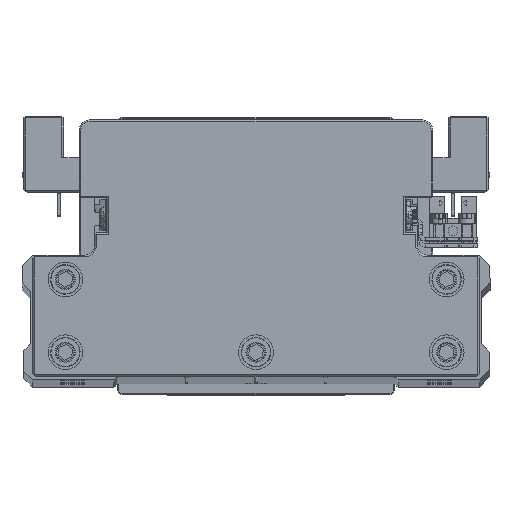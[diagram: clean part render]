
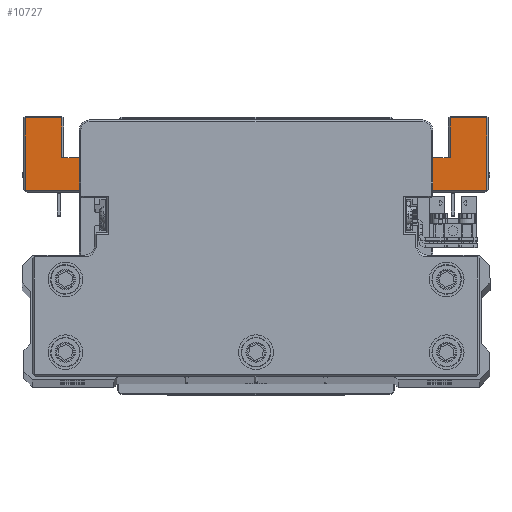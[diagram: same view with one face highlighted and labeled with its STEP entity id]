
A CAD part, top view. The second image highlights one B-rep face of the part: STEP entity #10727.
In plain terms, the highlighted planar face has unit normal (0, 0, 1) as drawn and (0, -1, 0) by its records, which use the part's own axes.
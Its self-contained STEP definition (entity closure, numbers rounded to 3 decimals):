
#464 = VECTOR ( 'NONE', #29020, 1000. ) ;
#674 = DIRECTION ( 'NONE',  ( 0., 0., -1. ) ) ;
#771 = EDGE_CURVE ( 'NONE', #39238, #8854, #3819, .T. ) ;
#1329 = LINE ( 'NONE', #13946, #27984 ) ;
#1370 = VERTEX_POINT ( 'NONE', #7872 ) ;
#1417 = VERTEX_POINT ( 'NONE', #11393 ) ;
#2073 = CARTESIAN_POINT ( 'NONE',  ( -40.066, -45., -41.5 ) ) ;
#2319 = VECTOR ( 'NONE', #40603, 1000. ) ;
#3092 = EDGE_CURVE ( 'NONE', #18707, #5013, #4542, .T. ) ;
#3256 = CARTESIAN_POINT ( 'NONE',  ( -40.066, -45., -43. ) ) ;
#3819 = LINE ( 'NONE', #16426, #464 ) ;
#3892 = CARTESIAN_POINT ( 'NONE',  ( 46., -45., -54. ) ) ;
#3992 = VERTEX_POINT ( 'NONE', #33809 ) ;
#4133 = EDGE_CURVE ( 'NONE', #8422, #38306, #15630, .T. ) ;
#4152 = CARTESIAN_POINT ( 'NONE',  ( -66.5, -45., -43. ) ) ;
#4463 = DIRECTION ( 'NONE',  ( -1., 0., 0. ) ) ;
#4494 = ORIENTED_EDGE ( 'NONE', *, *, #5539, .T. ) ;
#4538 = DIRECTION ( 'NONE',  ( 0., 1., 0. ) ) ;
#4542 = CIRCLE ( 'NONE', #27623, 1.5 ) ;
#4681 = CARTESIAN_POINT ( 'NONE',  ( -56., -45., -52.5 ) ) ;
#4908 = VERTEX_POINT ( 'NONE', #18185 ) ;
#5013 = VERTEX_POINT ( 'NONE', #3256 ) ;
#5200 = EDGE_CURVE ( 'NONE', #20806, #8422, #23509, .T. ) ;
#5339 = EDGE_CURVE ( 'NONE', #25556, #3992, #40009, .T. ) ;
#5539 = EDGE_CURVE ( 'NONE', #3992, #18707, #12939, .T. ) ;
#5723 = ORIENTED_EDGE ( 'NONE', *, *, #5200, .T. ) ;
#5895 = LINE ( 'NONE', #28007, #2319 ) ;
#6283 = DIRECTION ( 'NONE',  ( 0., 0., -1. ) ) ;
#6363 = DIRECTION ( 'NONE',  ( 0., -1., 0. ) ) ;
#6605 = CARTESIAN_POINT ( 'NONE',  ( -56., -45., -52.5 ) ) ;
#7129 = DIRECTION ( 'NONE',  ( 0., 0., 1. ) ) ;
#7416 = CARTESIAN_POINT ( 'NONE',  ( -39.868, -45., -42.987 ) ) ;
#7552 = CARTESIAN_POINT ( 'NONE',  ( 46., -45., -54. ) ) ;
#7793 = DIRECTION ( 'NONE',  ( 0., 0., -1. ) ) ;
#7872 = CARTESIAN_POINT ( 'NONE',  ( -66.5, -45., -64. ) ) ;
#8046 = VERTEX_POINT ( 'NONE', #13727 ) ;
#8150 = VERTEX_POINT ( 'NONE', #14341 ) ;
#8422 = VERTEX_POINT ( 'NONE', #22353 ) ;
#8764 = CARTESIAN_POINT ( 'NONE',  ( 40.066, -45., -43. ) ) ;
#8854 = VERTEX_POINT ( 'NONE', #6605 ) ;
#8875 = DIRECTION ( 'NONE',  ( -0.991, 0., 0.132 ) ) ;
#8987 = VECTOR ( 'NONE', #4463, 1000. ) ;
#9462 = FACE_OUTER_BOUND ( 'NONE', #26788, .T. ) ;
#9472 = ORIENTED_EDGE ( 'NONE', *, *, #27425, .T. ) ;
#9536 = VECTOR ( 'NONE', #21375, 1000. ) ;
#10727 = ADVANCED_FACE ( 'NONE', ( #9462 ), #22072, .T. ) ;
#10847 = VERTEX_POINT ( 'NONE', #29282 ) ;
#11128 = EDGE_CURVE ( 'NONE', #5013, #31573, #5895, .T. ) ;
#11393 = CARTESIAN_POINT ( 'NONE',  ( -56., -45., -64. ) ) ;
#11563 = ORIENTED_EDGE ( 'NONE', *, *, #12234, .T. ) ;
#11716 = CARTESIAN_POINT ( 'NONE',  ( -77.786, -45., -42.5 ) ) ;
#11732 = DIRECTION ( 'NONE',  ( 1., 0., 0. ) ) ;
#11966 = ORIENTED_EDGE ( 'NONE', *, *, #771, .F. ) ;
#12234 = EDGE_CURVE ( 'NONE', #1417, #8854, #32995, .T. ) ;
#12508 = EDGE_CURVE ( 'NONE', #10847, #39238, #22847, .T. ) ;
#12939 = LINE ( 'NONE', #25542, #35629 ) ;
#13727 = CARTESIAN_POINT ( 'NONE',  ( 40.066, -45., -43. ) ) ;
#13946 = CARTESIAN_POINT ( 'NONE',  ( 66.5, -45., -43.5 ) ) ;
#14154 = EDGE_CURVE ( 'NONE', #8150, #27198, #21979, .T. ) ;
#14341 = CARTESIAN_POINT ( 'NONE',  ( 46., -45., -52.5 ) ) ;
#14687 = DIRECTION ( 'NONE',  ( 0., 1., 0. ) ) ;
#15204 = ORIENTED_EDGE ( 'NONE', *, *, #28160, .T. ) ;
#15478 = ORIENTED_EDGE ( 'NONE', *, *, #28331, .T. ) ;
#15630 = LINE ( 'NONE', #28210, #25071 ) ;
#16244 = VERTEX_POINT ( 'NONE', #33566 ) ;
#16399 = LINE ( 'NONE', #28987, #28234 ) ;
#16426 = CARTESIAN_POINT ( 'NONE',  ( -55.5, -45., -52.5 ) ) ;
#16503 = DIRECTION ( 'NONE',  ( 1., 0., 0. ) ) ;
#17160 = DIRECTION ( 'NONE',  ( 0., 0., -1. ) ) ;
#17306 = DIRECTION ( 'NONE',  ( 0., 0., 1. ) ) ;
#17379 = VECTOR ( 'NONE', #8875, 1000. ) ;
#18020 = AXIS2_PLACEMENT_3D ( 'NONE', #32859, #4538, #17160 ) ;
#18180 = ORIENTED_EDGE ( 'NONE', *, *, #3092, .T. ) ;
#18185 = CARTESIAN_POINT ( 'NONE',  ( 39.868, -45., -42.987 ) ) ;
#18570 = VECTOR ( 'NONE', #7793, 1000. ) ;
#18707 = VERTEX_POINT ( 'NONE', #7416 ) ;
#18815 = CARTESIAN_POINT ( 'NONE',  ( 56., -45., -52.5 ) ) ;
#18973 = DIRECTION ( 'NONE',  ( 0., 0., -1. ) ) ;
#19887 = VECTOR ( 'NONE', #24312, 1000. ) ;
#20184 = LINE ( 'NONE', #32785, #8987 ) ;
#20560 = ORIENTED_EDGE ( 'NONE', *, *, #32564, .F. ) ;
#20806 = VERTEX_POINT ( 'NONE', #18815 ) ;
#21375 = DIRECTION ( 'NONE',  ( -1., 0., 0. ) ) ;
#21979 = LINE ( 'NONE', #34590, #39097 ) ;
#22072 = PLANE ( 'NONE',  #28689 ) ;
#22353 = CARTESIAN_POINT ( 'NONE',  ( 56., -45., -64. ) ) ;
#22380 = EDGE_CURVE ( 'NONE', #1370, #1417, #27431, .T. ) ;
#22847 = LINE ( 'NONE', #35441, #27217 ) ;
#23509 = LINE ( 'NONE', #36103, #18570 ) ;
#24243 = CARTESIAN_POINT ( 'NONE',  ( 66.5, -45., -64. ) ) ;
#24312 = DIRECTION ( 'NONE',  ( -1., 0., 0. ) ) ;
#24477 = ORIENTED_EDGE ( 'NONE', *, *, #14154, .F. ) ;
#24547 = CARTESIAN_POINT ( 'NONE',  ( -46., -45., -52.5 ) ) ;
#24568 = LINE ( 'NONE', #37162, #17379 ) ;
#25071 = VECTOR ( 'NONE', #40798, 1000. ) ;
#25542 = CARTESIAN_POINT ( 'NONE',  ( -39.868, -45., -42.987 ) ) ;
#25556 = VERTEX_POINT ( 'NONE', #34369 ) ;
#26544 = DIRECTION ( 'NONE',  ( 0., 0., 1. ) ) ;
#26788 = EDGE_LOOP ( 'NONE', ( #29818, #4494, #18180, #32850, #36528, #38669, #11563, #11966, #36209, #27151, #24477, #20560, #5723, #31206, #36707, #9472, #15204, #15478 ) ) ;
#27151 = ORIENTED_EDGE ( 'NONE', *, *, #35943, .T. ) ;
#27198 = VERTEX_POINT ( 'NONE', #7552 ) ;
#27217 = VECTOR ( 'NONE', #7129, 1000. ) ;
#27233 = EDGE_CURVE ( 'NONE', #38306, #16244, #1329, .T. ) ;
#27286 = DIRECTION ( 'NONE',  ( 0., 0., -1. ) ) ;
#27425 = EDGE_CURVE ( 'NONE', #16244, #8046, #37046, .T. ) ;
#27431 = LINE ( 'NONE', #40027, #38952 ) ;
#27623 = AXIS2_PLACEMENT_3D ( 'NONE', #2073, #14687, #27286 ) ;
#27984 = VECTOR ( 'NONE', #26544, 1000. ) ;
#28007 = CARTESIAN_POINT ( 'NONE',  ( -66., -45., -43. ) ) ;
#28160 = EDGE_CURVE ( 'NONE', #8046, #4908, #35833, .T. ) ;
#28210 = CARTESIAN_POINT ( 'NONE',  ( 67., -45., -64. ) ) ;
#28234 = VECTOR ( 'NONE', #674, 1000. ) ;
#28331 = EDGE_CURVE ( 'NONE', #4908, #25556, #24568, .T. ) ;
#28689 = AXIS2_PLACEMENT_3D ( 'NONE', #34679, #6363, #18973 ) ;
#28987 = CARTESIAN_POINT ( 'NONE',  ( -66.5, -45., -64.5 ) ) ;
#29020 = DIRECTION ( 'NONE',  ( -1., 0., 0. ) ) ;
#29282 = CARTESIAN_POINT ( 'NONE',  ( -46., -45., -54. ) ) ;
#29818 = ORIENTED_EDGE ( 'NONE', *, *, #5339, .T. ) ;
#31206 = ORIENTED_EDGE ( 'NONE', *, *, #4133, .T. ) ;
#31573 = VERTEX_POINT ( 'NONE', #4152 ) ;
#32212 = LINE ( 'NONE', #3892, #33796 ) ;
#32564 = EDGE_CURVE ( 'NONE', #20806, #8150, #20184, .T. ) ;
#32785 = CARTESIAN_POINT ( 'NONE',  ( 55.5, -45., -52.5 ) ) ;
#32850 = ORIENTED_EDGE ( 'NONE', *, *, #11128, .T. ) ;
#32859 = CARTESIAN_POINT ( 'NONE',  ( 40.066, -45., -41.5 ) ) ;
#32995 = LINE ( 'NONE', #4681, #35785 ) ;
#33566 = CARTESIAN_POINT ( 'NONE',  ( 66.5, -45., -43. ) ) ;
#33796 = VECTOR ( 'NONE', #16503, 1000. ) ;
#33809 = CARTESIAN_POINT ( 'NONE',  ( -36.217, -45., -42.5 ) ) ;
#34369 = CARTESIAN_POINT ( 'NONE',  ( 36.217, -45., -42.5 ) ) ;
#34590 = CARTESIAN_POINT ( 'NONE',  ( 46., -45., -52.5 ) ) ;
#34679 = CARTESIAN_POINT ( 'NONE',  ( 0., -45., 0. ) ) ;
#35441 = CARTESIAN_POINT ( 'NONE',  ( -46., -45., -52.5 ) ) ;
#35629 = VECTOR ( 'NONE', #38121, 1000. ) ;
#35785 = VECTOR ( 'NONE', #17306, 1000. ) ;
#35833 = CIRCLE ( 'NONE', #18020, 1.5 ) ;
#35943 = EDGE_CURVE ( 'NONE', #10847, #27198, #32212, .T. ) ;
#36103 = CARTESIAN_POINT ( 'NONE',  ( 56., -45., -64.5 ) ) ;
#36209 = ORIENTED_EDGE ( 'NONE', *, *, #12508, .F. ) ;
#36528 = ORIENTED_EDGE ( 'NONE', *, *, #40580, .T. ) ;
#36707 = ORIENTED_EDGE ( 'NONE', *, *, #27233, .T. ) ;
#37046 = LINE ( 'NONE', #8764, #9536 ) ;
#37162 = CARTESIAN_POINT ( 'NONE',  ( 25.802, -45., -41.111 ) ) ;
#38121 = DIRECTION ( 'NONE',  ( -0.991, 0., -0.132 ) ) ;
#38306 = VERTEX_POINT ( 'NONE', #24243 ) ;
#38669 = ORIENTED_EDGE ( 'NONE', *, *, #22380, .T. ) ;
#38952 = VECTOR ( 'NONE', #11732, 1000. ) ;
#39097 = VECTOR ( 'NONE', #6283, 1000. ) ;
#39238 = VERTEX_POINT ( 'NONE', #24547 ) ;
#40009 = LINE ( 'NONE', #11716, #19887 ) ;
#40027 = CARTESIAN_POINT ( 'NONE',  ( -55.5, -45., -64. ) ) ;
#40580 = EDGE_CURVE ( 'NONE', #31573, #1370, #16399, .T. ) ;
#40603 = DIRECTION ( 'NONE',  ( -1., 0., 0. ) ) ;
#40798 = DIRECTION ( 'NONE',  ( 1., 0., 0. ) ) ;
